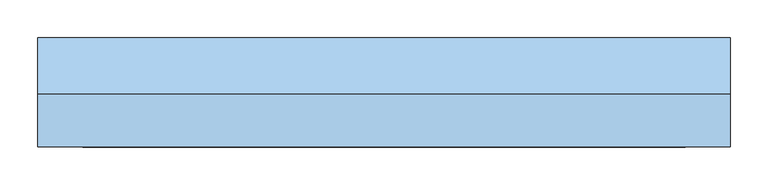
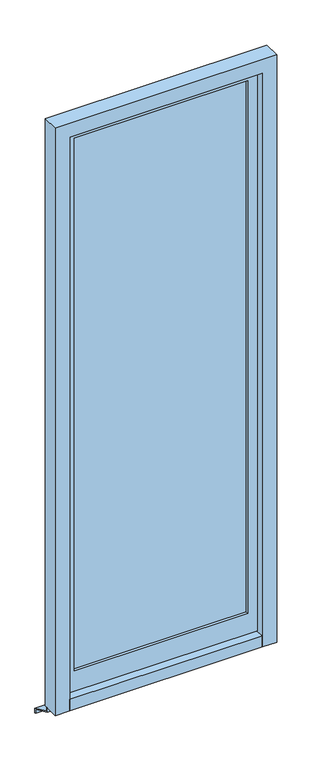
"""IFC4 building model written with IfcOpenShell, lengths in millimetres: window geometry, 380_片開窓_01 : AW6-H2470W800."""

from ifc_helpers import new_model, si_unit, frame, origin, place, context, project, spatial, polyline, outline, extrude, source, transform, mapped, element, save


def window_becbf3bb(model_context):
    return source(origin(), model_context, "Body", "SweptSolid", [
        extrude(outline(polyline([(2.5, 835.0), (87.5, 795.0), (87.5, 775.0), (82.5014518, 775.0), (82.5014518, 791.8262891), (-2.5, 831.8269723), (-2.5, 850.0), (2.5, 850.0), (2.5, 835.0)])), frame((-460.0, 0.0, 0.0), z_axis=(1.0, 0.0, 0.0), x_axis=(0.0, 1.0, 0.0)), (0.0, 0.0, 1.0), 920.0),
        extrude(outline(polyline([(360.0, -10.0), (-360.0, -10.0), (-360.0, -5.0), (360.0, -5.0), (360.0, -10.0)])), frame((0.0, 0.0, 990.0), z_axis=(0.0, 0.0, 1.0), x_axis=(1.0, 0.0, 0.0)), (0.0, 0.0, 1.0), 2340.0),
        extrude(outline(polyline([(3370.0, 400.0), (3370.0, -400.0), (900.0, -400.0), (900.0, 400.0), (3370.0, 400.0)]), holes=[polyline([(3330.0, 360.0), (990.0, 360.0), (990.0, -360.0), (3330.0, -360.0), (3330.0, 360.0)])]), frame((0.0, -22.5, 0.0), z_axis=(0.0, 1.0, 0.0), x_axis=(0.0, 0.0, 1.0)), (0.0, 0.0, 1.0), 30.0),
        extrude(outline(polyline([(-57.5, 850.0), (-57.5, 900.0), (12.5, 890.6666667), (12.5, 850.0), (-57.5, 850.0)])), frame((-400.0, 0.0, 0.0), z_axis=(1.0, 0.0, 0.0), x_axis=(0.0, 1.0, 0.0)), (0.0, 0.0, 1.0), 800.0),
        extrude(outline(polyline([(850.0, -460.0), (850.0, -400.0), (3370.0, -400.0), (3370.0, 400.0), (850.0, 400.0), (850.0, 460.0), (3430.0, 460.0), (3430.0, -460.0), (850.0, -460.0)])), frame((0.0, -57.5, 0.0), z_axis=(0.0, 1.0, 0.0), x_axis=(0.0, 0.0, 1.0)), (0.0, 0.0, 1.0), 70.0),
    ])


if __name__ == "__main__":
    model = new_model("IFC4")
    model_context = context("Model", 3, world=origin())
    ifc_project = project(units=[si_unit("LENGTHUNIT", "METRE", prefix="MILLI")], contexts=[model_context])
    site = spatial("IfcSite", under=ifc_project)
    building = spatial("IfcBuilding", under=site)
    placement = place(None, origin())
    window_shape = window_becbf3bb(model_context)
    element("IfcWindow", 1, ObjectType="380_片開窓_01 : AW6-H2470W800", at=placement, inside=building, context=model_context, shape_type="MappedRepresentation", body=[
        mapped(window_shape, transform((0.0, 0.0, 0.0), x_axis=(1.0, 0.0, 0.0), y_axis=(0.0, 1.0, 0.0), z_axis=(0.0, 0.0, 1.0))),
    ])
    save(model, "model.ifc")
